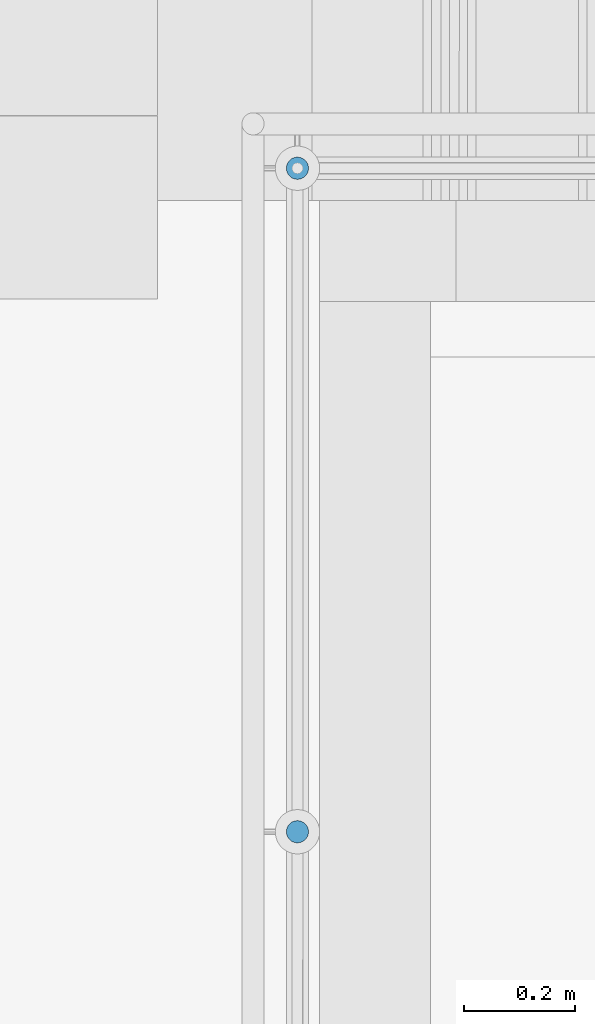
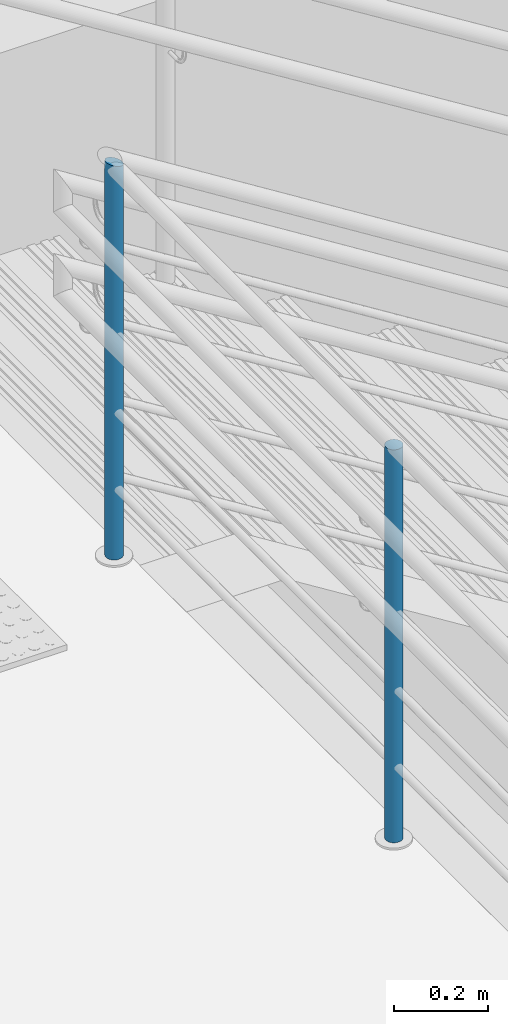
# One storey, part 80 of 237: 2 building element parts, 1 element without a shape of its own.
"""IFC2X3 building model written with IfcOpenShell, lengths in millimetres."""

from ifc_helpers import new_model, entity, si_unit, converted_unit, derived_unit, money_unit, direction, frame, origin_with_axes, place, context, subcontext, project, spatial, faceted_brep, material, type_object, element, aggregate, save


model = new_model("IFC2X3")

# Units and contexts
model_context = context("Model", 3, precision=0.01, world=origin_with_axes(), true_north=direction((0.0, 1.0)))
body_context = subcontext(model_context, "Body", "Model", "MODEL_VIEW")
ifc_project = project(units=[si_unit("LENGTHUNIT", "METRE", prefix="MILLI"), si_unit("AREAUNIT", "SQUARE_METRE"), si_unit("VOLUMEUNIT", "CUBIC_METRE"), converted_unit("PLANEANGLEUNIT", "DEGREE", entity("IfcPlaneAngleMeasure", 0.0174532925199), si_unit("PLANEANGLEUNIT", "RADIAN"), dimensions=[0, 0, 0, 0, 0, 0, 0]), money_unit("USD"), converted_unit("TIMEUNIT", "Year", entity("IfcTimeMeasure", 31556926.0), si_unit("TIMEUNIT", "SECOND"), dimensions=[0, 0, 1, 0, 0, 0, 0]), si_unit("MASSUNIT", "GRAM", prefix="KILO"), si_unit("THERMODYNAMICTEMPERATUREUNIT", "DEGREE_CELSIUS"), si_unit("LUMINOUSINTENSITYUNIT", "LUMEN"), si_unit("ENERGYUNIT", "JOULE", prefix="MEGA"), derived_unit("THERMALCONDUCTANCEUNIT", [(si_unit("POWERUNIT", "WATT"), 1), (si_unit("LENGTHUNIT", "METRE"), -1), (si_unit("THERMODYNAMICTEMPERATUREUNIT", "KELVIN"), -1)]), derived_unit("SPECIFICHEATCAPACITYUNIT", [(si_unit("ENERGYUNIT", "JOULE"), 1), (si_unit("MASSUNIT", "GRAM", prefix="KILO"), -1), (si_unit("THERMODYNAMICTEMPERATUREUNIT", "KELVIN"), -1)]), derived_unit("MASSDENSITYUNIT", [(si_unit("MASSUNIT", "GRAM", prefix="KILO"), 1), (si_unit("VOLUMEUNIT", "CUBIC_METRE"), -1)])], contexts=[model_context])

# Site, building, storey
site_placement = place(None, origin_with_axes())
site = spatial("IfcSite", under=ifc_project, at=site_placement, Name="Local", CompositionType="ELEMENT")
building_placement = place(site_placement, origin_with_axes())
building = spatial("IfcBuilding", under=site, at=building_placement, Name="Construção", CompositionType="ELEMENT")
storey_placement = place(building_placement, origin_with_axes())
storey = spatial("IfcBuildingStorey", under=building, at=storey_placement, Name="Pavimento Térreo", CompositionType="ELEMENT", Elevation=0.0)

# Railing, building element parts
railing_type = type_object("IfcRailingType", Name="Tipo de Guarda-Corpo", PredefinedType="NOTDEFINED")
railing_placement = place(storey_placement, frame((104000.0, 14000.0, -7099.22292764), z_axis=(0.0, 0.0, 1.0), x_axis=(1.0, 0.0, 0.0)))
railing = element("IfcRailing", 1, at=railing_placement, inside=storey, type_object=railing_type, Name="Guarda-Corpo - 001", PredefinedType="NOTDEFINED")
ifc_material = material(Name="Aço - Inoxidável")
building_element_part_1_placement = place(railing_placement, origin_with_axes())
building_element_part_1 = element("IfcBuildingElementPart", 2, at=building_element_part_1_placement, material=ifc_material, Name="Aço - Inoxidável", context=body_context, shape_type="Brep", body=[
    faceted_brep([(-3756.43824463, 18687.9487336, 2122.14324273), (-3756.13444565, 18691.4217012, 2122.14324273), (-3756.13444565, 18691.421723, 3141.39654788), (-3756.43824463, 18687.9487551, 3141.48383983), (-3756.43833655, 18694.8946607, 2122.14324273), (-3757.34050271, 18684.5812824, 2122.14324273), (-3758.81380523, 18681.4216657, 2122.14324273), (-3760.81338665, 18678.5658871, 2122.14324273), (-3763.2784907, 18676.1007178, 2122.14324273), (-3766.13421643, 18674.1010607, 2122.14324273), (-3769.29379406, 18672.6276746, 2122.14324273), (-3772.66122144, 18671.7253273, 2122.14324273), (-3776.13418097, 18671.4214364, 2122.14324273), (-3779.60714854, 18671.7252354, 2122.14324273), (-3782.9745998, 18672.6274934, 2122.14324273), (-3786.13421643, 18674.100796, 2122.14324273), (-3788.98999508, 18676.1003774, 2122.14324273), (-3791.45516438, 18678.5654814, 2122.14324273), (-3793.45482138, 18681.4212071, 2122.14324273), (-3794.92820754, 18684.5807847, 2122.14324273), (-3795.83055474, 18687.9482121, 2122.14324273), (-3796.13444565, 18691.4211716, 2122.14324273), (-3795.83064667, 18694.8941392, 2122.14324273), (-3794.92838859, 18698.2615905, 2122.14324273), (-3793.45508606, 18701.4212071, 2122.14324273), (-3791.45550464, 18704.2769858, 2122.14324273), (-3788.9904006, 18706.7421551, 2122.14324273), (-3786.13467486, 18708.7418121, 2122.14324273), (-3782.97509723, 18710.2151983, 2122.14324273), (-3779.60766986, 18711.1175455, 2122.14324273), (-3776.13471033, 18711.4214364, 2122.14324273), (-3772.66174275, 18711.1176375, 2122.14324273), (-3769.2942915, 18710.2153794, 2122.14324273), (-3766.13467487, 18708.7420769, 2122.14324273), (-3763.27889621, 18706.7424955, 2122.14324273), (-3760.81372692, 18704.2773914, 2122.14324273), (-3758.81406991, 18701.4216657, 2122.14324273), (-3757.34068376, 18698.2620881, 2122.14324273), (-3756.43833655, 18694.8946822, 3141.48386635), (-3779.60714854, 18671.7252316, 3148.14107061), (-3776.13418097, 18671.4214364, 3147.14316636), (-3772.66122144, 18671.7253311, 3146.14526443), (-3769.29379406, 18672.627682, 3145.17768557), (-3766.13421643, 18674.1010717, 3144.26982917), (-3763.2784907, 18676.1007318, 3143.44927999), (-3760.81338665, 18678.5659038, 3142.74096999), (-3758.81380523, 18681.4216846, 3142.16642082), (-3757.34050271, 18684.5813029, 3141.74308987), (-3757.34068376, 18698.2621086, 3141.74314211), (-3758.81406991, 18701.4216846, 3142.16649719), (-3760.81372692, 18704.2774082, 3142.74106816), (-3763.27889621, 18706.7425095, 3143.44939698), (-3766.13467487, 18708.7420878, 3144.26996144), (-3769.2942915, 18710.2153869, 3145.17782909), (-3772.66174275, 18711.1176412, 3146.14541484), (-3776.13471033, 18711.4214364, 3147.14331909), (-3779.60766986, 18711.1175417, 3148.14122102), (-3782.97509723, 18710.2151908, 3149.10879988), (-3786.13467486, 18708.7418012, 3150.01665628), (-3788.9904006, 18706.742141, 3150.83720547), (-3791.45550464, 18704.276969, 3151.54551547), (-3793.45508606, 18701.4211882, 3152.12006463), (-3794.92838859, 18698.2615699, 3152.54339558), (-3795.83064667, 18694.8941177, 3152.80264562), (-3796.13444564, 18691.4211498, 3152.88993757), (-3795.83055474, 18687.9481906, 3152.8026191), (-3794.92820754, 18684.5807642, 3152.54334335), (-3793.45482138, 18681.4211882, 3152.11998827), (-3791.45516438, 18678.5654647, 3151.54541729), (-3788.98999508, 18676.1003633, 3150.83708847), (-3786.13421643, 18674.100785, 3150.01652401), (-3782.9745998, 18672.627486, 3149.10865636)], [[[0, 1, 2, 3]], [[4, 1, 0, 5, 6, 7, 8, 9, 10, 11, 12, 13, 14, 15, 16, 17, 18, 19, 20, 21, 22, 23, 24, 25, 26, 27, 28, 29, 30, 31, 32, 33, 34, 35, 36, 37]], [[1, 4, 38, 2]], [[39, 40, 41, 42, 43, 44, 45, 46, 47, 3, 2, 38, 48, 49, 50, 51, 52, 53, 54, 55, 56, 57, 58, 59, 60, 61, 62, 63, 64, 65, 66, 67, 68, 69, 70, 71]], [[5, 0, 3, 47]], [[6, 5, 47, 46]], [[7, 6, 46, 45]], [[8, 7, 45, 44]], [[9, 8, 44, 43]], [[10, 9, 43, 42]], [[11, 10, 42, 41]], [[12, 11, 41, 40]], [[13, 12, 40, 39]], [[14, 13, 39, 71]], [[15, 14, 71, 70]], [[16, 15, 70, 69]], [[17, 16, 69, 68]], [[18, 17, 68, 67]], [[19, 18, 67, 66]], [[20, 19, 66, 65]], [[21, 20, 65, 64]], [[22, 21, 64, 63]], [[23, 22, 63, 62]], [[24, 23, 62, 61]], [[25, 24, 61, 60]], [[26, 25, 60, 59]], [[27, 26, 59, 58]], [[28, 27, 58, 57]], [[29, 28, 57, 56]], [[30, 29, 56, 55]], [[31, 30, 55, 54]], [[32, 31, 54, 53]], [[33, 32, 53, 52]], [[34, 33, 52, 51]], [[35, 34, 51, 50]], [[36, 35, 50, 49]], [[37, 36, 49, 48]], [[4, 37, 48, 38]]]),
])
building_element_part_2_placement = place(railing_placement, origin_with_axes())
building_element_part_2 = element("IfcBuildingElementPart", 3, at=building_element_part_2_placement, material=ifc_material, Name="Aço - Inoxidável", context=body_context, shape_type="Brep", body=[
    faceted_brep([(-3756.42241952, 17492.1538071, 2109.61538462), (-3756.11862055, 17495.6267746, 2109.61538462), (-3756.11862055, 17495.6267746, 3134.61538462), (-3756.42241952, 17492.1538071, 3134.61538462), (-3756.42251145, 17499.0997342, 2109.61538462), (-3757.3246776, 17488.7863558, 2109.61538462), (-3758.79798013, 17485.6267392, 2109.61538462), (-3760.79756155, 17482.7709605, 2109.61538462), (-3763.2626656, 17480.3057912, 2109.61538462), (-3766.11839133, 17478.3061342, 2109.61538462), (-3769.27796896, 17476.8327481, 2109.61538462), (-3772.64539633, 17475.9304009, 2109.61538462), (-3776.11835586, 17475.62651, 2109.61538462), (-3779.59132344, 17475.9303089, 2109.61538462), (-3782.95877469, 17476.832567, 2109.61538462), (-3786.11839132, 17478.3058696, 2109.61538462), (-3788.97416998, 17480.305451, 2109.61538462), (-3791.43933927, 17482.770555, 2109.61538462), (-3793.43899628, 17485.6262808, 2109.61538462), (-3794.91238243, 17488.7858584, 2109.61538462), (-3795.81472964, 17492.1532858, 2109.61538462), (-3796.11862054, 17495.6262453, 2109.61538462), (-3795.81482156, 17499.0992129, 2109.61538462), (-3794.91256348, 17502.4666641, 2109.61538462), (-3793.43926096, 17505.6262807, 2109.61538462), (-3791.43967954, 17508.4820594, 2109.61538462), (-3788.97457549, 17510.9472287, 2109.61538462), (-3786.11884976, 17512.9468857, 2109.61538462), (-3782.95927213, 17514.4202719, 2109.61538462), (-3779.59184475, 17515.3226191, 2109.61538462), (-3776.11888522, 17515.62651, 2109.61538462), (-3772.64591765, 17515.322711, 2109.61538462), (-3769.27846639, 17514.4204529, 2109.61538462), (-3766.11884976, 17512.9471504, 2109.61538462), (-3763.26307111, 17510.947569, 2109.61538462), (-3760.79790181, 17508.4824649, 2109.61538462), (-3758.79824481, 17505.6267392, 2109.61538462), (-3757.32485866, 17502.4671616, 2109.61538462), (-3756.42251145, 17499.0997342, 3134.61538462), (-3779.59132344, 17475.9303089, 3134.61538462), (-3776.11835586, 17475.62651, 3134.61538462), (-3772.64539633, 17475.9304009, 3134.61538462), (-3769.27796896, 17476.8327481, 3134.61538462), (-3766.11839133, 17478.3061342, 3134.61538462), (-3763.2626656, 17480.3057912, 3134.61538462), (-3760.79756155, 17482.7709605, 3134.61538462), (-3758.79798013, 17485.6267392, 3134.61538462), (-3757.3246776, 17488.7863558, 3134.61538462), (-3757.32485866, 17502.4671616, 3134.61538462), (-3758.79824481, 17505.6267392, 3134.61538462), (-3760.79790181, 17508.4824649, 3134.61538462), (-3763.26307111, 17510.947569, 3134.61538462), (-3766.11884976, 17512.9471504, 3134.61538462), (-3769.27846639, 17514.4204529, 3134.61538462), (-3772.64591765, 17515.322711, 3134.61538462), (-3776.11888522, 17515.62651, 3134.61538462), (-3779.59184475, 17515.3226191, 3134.61538462), (-3782.95927213, 17514.4202719, 3134.61538462), (-3786.11884976, 17512.9468857, 3134.61538462), (-3788.97457549, 17510.9472287, 3134.61538462), (-3791.43967954, 17508.4820594, 3134.61538462), (-3793.43926096, 17505.6262807, 3134.61538462), (-3794.91256348, 17502.4666641, 3134.61538462), (-3795.81482156, 17499.0992129, 3134.61538462), (-3796.11862054, 17495.6262453, 3134.61538462), (-3795.81472964, 17492.1532858, 3134.61538462), (-3794.91238243, 17488.7858584, 3134.61538462), (-3793.43899628, 17485.6262808, 3134.61538462), (-3791.43933927, 17482.770555, 3134.61538462), (-3788.97416998, 17480.305451, 3134.61538462), (-3786.11839132, 17478.3058696, 3134.61538462), (-3782.95877469, 17476.832567, 3134.61538462)], [[[0, 1, 2, 3]], [[4, 1, 0, 5, 6, 7, 8, 9, 10, 11, 12, 13, 14, 15, 16, 17, 18, 19, 20, 21, 22, 23, 24, 25, 26, 27, 28, 29, 30, 31, 32, 33, 34, 35, 36, 37]], [[1, 4, 38, 2]], [[39, 40, 41, 42, 43, 44, 45, 46, 47, 3, 2, 38, 48, 49, 50, 51, 52, 53, 54, 55, 56, 57, 58, 59, 60, 61, 62, 63, 64, 65, 66, 67, 68, 69, 70, 71]], [[5, 0, 3, 47]], [[6, 5, 47, 46]], [[7, 6, 46, 45]], [[8, 7, 45, 44]], [[9, 8, 44, 43]], [[10, 9, 43, 42]], [[11, 10, 42, 41]], [[12, 11, 41, 40]], [[13, 12, 40, 39]], [[14, 13, 39, 71]], [[15, 14, 71, 70]], [[16, 15, 70, 69]], [[17, 16, 69, 68]], [[18, 17, 68, 67]], [[19, 18, 67, 66]], [[20, 19, 66, 65]], [[21, 20, 65, 64]], [[22, 21, 64, 63]], [[23, 22, 63, 62]], [[24, 23, 62, 61]], [[25, 24, 61, 60]], [[26, 25, 60, 59]], [[27, 26, 59, 58]], [[28, 27, 58, 57]], [[29, 28, 57, 56]], [[30, 29, 56, 55]], [[31, 30, 55, 54]], [[32, 31, 54, 53]], [[33, 32, 53, 52]], [[34, 33, 52, 51]], [[35, 34, 51, 50]], [[36, 35, 50, 49]], [[37, 36, 49, 48]], [[4, 37, 48, 38]]]),
])
aggregate(railing, [building_element_part_1, building_element_part_2])

save(model, "model.ifc")
